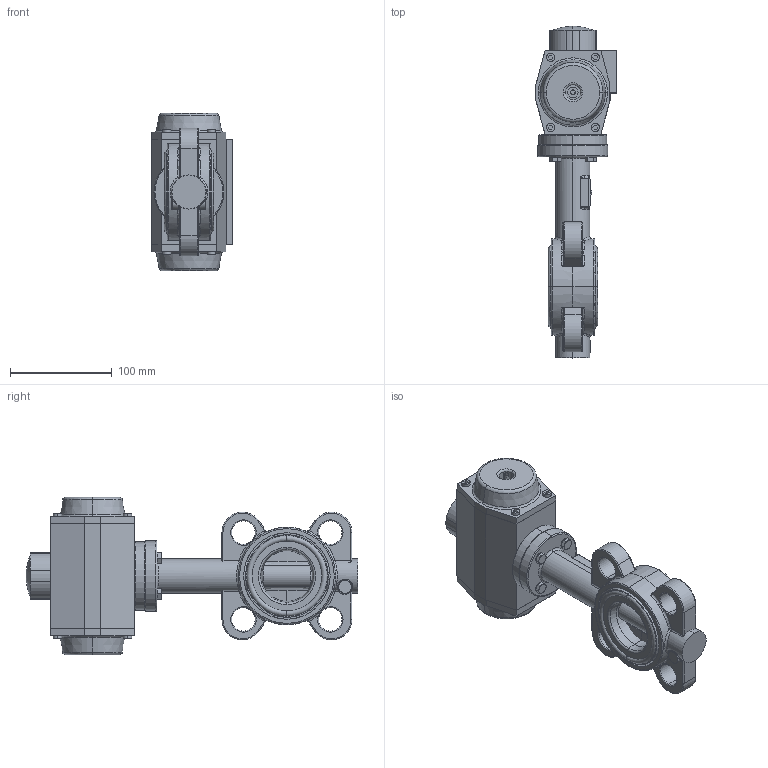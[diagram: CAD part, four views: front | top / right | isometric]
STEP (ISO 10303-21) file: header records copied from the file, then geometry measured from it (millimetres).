
FILE_DESCRIPTION (( 'STEP AP214' ), '1' );
FILE_NAME ('VTB200 DN50 + AP2D.STEP', '2015-10-04T19:16:32', ( '' ), ( '' ), 'SwSTEP 2.0', 'SolidWorks 2013', '' );
FILE_SCHEMA (( 'AUTOMOTIVE_DESIGN' ));
Length unit declared in the file: millimetre
Products named in the file (8): hex bolt gradec_din_ISO 4016 - M6 x 30 x 18-WN; YF067F5F5H10D15NYL; AP2 - F5_Default<As Machined>; VTB200 Wafer DN50 BS; Typeplaatje xxmm; Klep VTB200 DN50 2013; Huis met zitting DN50 2013; VTB200 DN50 + AP2D
Assembly tree (10 placements, depth 3):
  VTB200 DN50 + AP2D
    VTB200 Wafer DN50 BS
      Huis met zitting DN50 2013
      Klep VTB200 DN50 2013
      Typeplaatje xxmm
    AP2 - F5_Default<As Machined>
    YF067F5F5H10D15NYL
    hex bolt gradec_din_ISO 4016 - M6 x 30 x 18-WN  x4
Bounding box: 79 x 326.99 x 155 mm (x, y, z)
Volume: 1336899.6 mm3; surface area: 185225.7 mm2
Topology: 16 solids, 16 shells, 975 faces, 2331 edges, 1404 vertices
Faces by surface type: plane 353, cylinder 207, bspline 159, cone 118, torus 116, sphere 22
Entity records: 39436 total; most frequent: CARTESIAN_POINT 17170, ORIENTED_EDGE 4230, DIRECTION 4046, EDGE_CURVE 2115, AXIS2_PLACEMENT_3D 1572, VERTEX_POINT 1308, EDGE_LOOP 993, VECTOR 902
